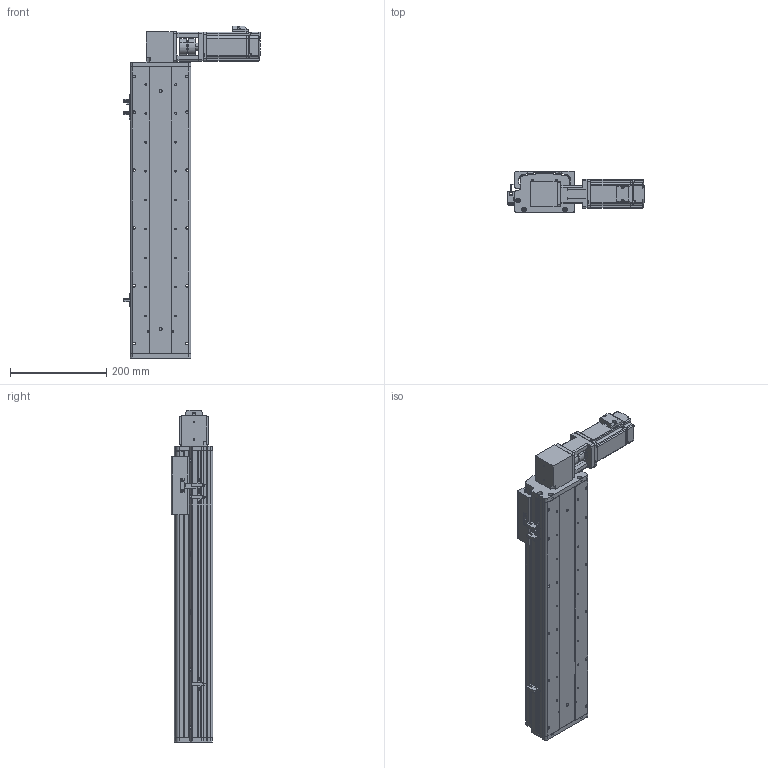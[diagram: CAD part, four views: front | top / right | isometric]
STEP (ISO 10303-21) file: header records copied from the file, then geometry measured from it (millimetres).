
FILE_DESCRIPTION (( 'STEP AP214' ), '1' );
FILE_NAME ('KSD125B-S400-MRT-CM.STEP', '2017-10-21T06:50:13', ( '微软用户' ), ( '微软中国' ), 'SwSTEP 2.0', 'SolidWorks 2014', '' );
FILE_SCHEMA (( 'AUTOMOTIVE_DESIGN' ));
Length unit declared in the file: millimetre
Products named in the file (16): MHMD042G1CA_2_03; 100宽马达安装板同步带左; KSD125模组400行程同步带-防尘盖; 125模组400行程同步带-底板; KSD125模组同步带-防撞垫2; CS-34X32-10X14; 100遵鎮湛假蚾啣1 ; 覜茼え68遵圉猾敕; U倰嫖萇假蚾璃; U倰嫖萇EEㄜSX672; KSD125模组同步带-防撞垫1; 100宽安装板同步带带电机座400W,86; 前端板-125宽模组同步带; 125模组同步带-尾端板1; KSD125模组同步带-滑动座1; KSD125B-S400-MRT-CM
Assembly tree (19 placements, depth 2):
  KSD125B-S400-MRT-CM
    KSD125模组同步带-滑动座1
    125模组同步带-尾端板1
    前端板-125宽模组同步带
    100宽安装板同步带带电机座400W,86
    KSD125模组同步带-防撞垫1
    U倰嫖萇EEㄜSX672  x3
    U倰嫖萇假蚾璃  x3
    覜茼え68遵圉猾敕
    100遵鎮湛假蚾啣1 
    CS-34X32-10X14
    KSD125模组同步带-防撞垫2
    125模组400行程同步带-底板
    KSD125模组400行程同步带-防尘盖
    100宽马达安装板同步带左
    MHMD042G1CA_2_03
Bounding box: 282.7 x 86 x 689 mm (x, y, z)
Volume: 2306275.1 mm3; surface area: 784001.9 mm2
Topology: 18 solids, 21 shells, 1634 faces, 4678 edges, 3084 vertices
Faces by surface type: cylinder 833, plane 698, cone 81, bspline 22
Entity records: 57042 total; most frequent: CARTESIAN_POINT 11600, DIRECTION 8337, ORIENTED_EDGE 7876, EDGE_CURVE 4016, AXIS2_PLACEMENT_3D 3081, VERTEX_POINT 2676, VECTOR 2175, LINE 2175
